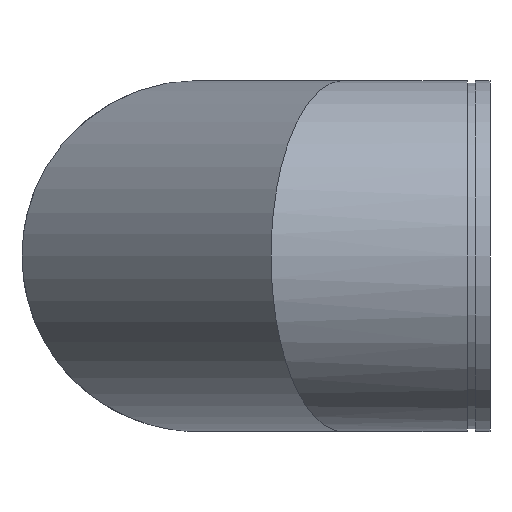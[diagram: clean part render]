
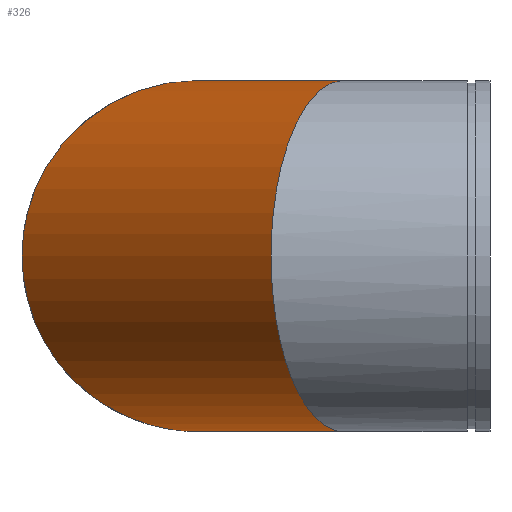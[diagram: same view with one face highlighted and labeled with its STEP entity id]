
A CAD part, left-side view. The second image highlights one B-rep face of the part: STEP entity #326.
In plain terms, the highlighted cylindrical face has radius 304.8 mm (diameter 609.6 mm), a full revolution.
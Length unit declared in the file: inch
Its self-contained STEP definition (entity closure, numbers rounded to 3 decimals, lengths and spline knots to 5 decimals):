
#51=ELLIPSE('',#383,12.98871,12.);
#52=ELLIPSE('',#384,12.98871,12.);
#53=ELLIPSE('',#385,12.98871,12.);
#54=ELLIPSE('',#388,12.98871,12.);
#55=ELLIPSE('',#389,12.98871,12.);
#56=ELLIPSE('',#390,12.98871,12.);
#82=FACE_OUTER_BOUND('',#103,.T.);
#103=EDGE_LOOP('',(#269,#270,#271,#272,#273,#274,#275,#276));
#115=LINE('',#606,#125);
#125=VECTOR('',#494,12.);
#165=VERTEX_POINT('',#596);
#166=VERTEX_POINT('',#598);
#167=VERTEX_POINT('',#600);
#168=VERTEX_POINT('',#605);
#169=VERTEX_POINT('',#607);
#170=VERTEX_POINT('',#609);
#201=EDGE_CURVE('',#165,#166,#51,.T.);
#202=EDGE_CURVE('',#167,#166,#52,.T.);
#203=EDGE_CURVE('',#167,#165,#53,.T.);
#204=EDGE_CURVE('',#165,#168,#115,.T.);
#205=EDGE_CURVE('',#168,#169,#54,.T.);
#206=EDGE_CURVE('',#170,#169,#55,.T.);
#207=EDGE_CURVE('',#170,#168,#56,.T.);
#269=ORIENTED_EDGE('',*,*,#203,.F.);
#270=ORIENTED_EDGE('',*,*,#202,.T.);
#271=ORIENTED_EDGE('',*,*,#201,.F.);
#272=ORIENTED_EDGE('',*,*,#204,.T.);
#273=ORIENTED_EDGE('',*,*,#205,.T.);
#274=ORIENTED_EDGE('',*,*,#206,.F.);
#275=ORIENTED_EDGE('',*,*,#207,.T.);
#276=ORIENTED_EDGE('',*,*,#204,.F.);
#293=CYLINDRICAL_SURFACE('',#387,12.);
#326=ADVANCED_FACE('',(#82),#293,.T.);
#383=AXIS2_PLACEMENT_3D('',#599,#484,#485);
#384=AXIS2_PLACEMENT_3D('',#601,#486,#487);
#385=AXIS2_PLACEMENT_3D('',#602,#488,#489);
#387=AXIS2_PLACEMENT_3D('',#604,#492,#493);
#388=AXIS2_PLACEMENT_3D('',#608,#495,#496);
#389=AXIS2_PLACEMENT_3D('',#610,#497,#498);
#390=AXIS2_PLACEMENT_3D('',#611,#499,#500);
#484=DIRECTION('center_axis',(-0.383,-0.924,0.));
#485=DIRECTION('ref_axis',(0.924,-0.383,0.));
#486=DIRECTION('center_axis',(0.383,0.924,0.));
#487=DIRECTION('ref_axis',(0.924,-0.383,0.));
#488=DIRECTION('center_axis',(-0.383,-0.924,0.));
#489=DIRECTION('ref_axis',(0.924,-0.383,0.));
#492=DIRECTION('center_axis',(-0.707,-0.707,0.));
#493=DIRECTION('ref_axis',(0.707,-0.707,0.));
#494=DIRECTION('',(0.707,0.707,0.));
#495=DIRECTION('center_axis',(-0.924,-0.383,0.));
#496=DIRECTION('ref_axis',(0.383,-0.924,0.));
#497=DIRECTION('center_axis',(0.924,0.383,0.));
#498=DIRECTION('ref_axis',(0.383,-0.924,0.));
#499=DIRECTION('center_axis',(-0.924,-0.383,0.));
#500=DIRECTION('ref_axis',(0.383,-0.924,0.));
#596=CARTESIAN_POINT('',(-12.,-5.02944,0.));
#598=CARTESIAN_POINT('',(0.,-10.,-12.));
#599=CARTESIAN_POINT('Origin',(0.,-10.,0.));
#600=CARTESIAN_POINT('',(0.,-10.,12.));
#601=CARTESIAN_POINT('Origin',(0.,-10.,0.));
#602=CARTESIAN_POINT('Origin',(0.,-10.,0.));
#604=CARTESIAN_POINT('Origin',(10.,0.,0.));
#605=CARTESIAN_POINT('',(5.02944,12.,0.));
#606=CARTESIAN_POINT('',(1.51472,8.48528,0.));
#607=CARTESIAN_POINT('',(10.,0.,-12.));
#608=CARTESIAN_POINT('Origin',(10.,0.,0.));
#609=CARTESIAN_POINT('',(10.,0.,12.));
#610=CARTESIAN_POINT('Origin',(10.,0.,0.));
#611=CARTESIAN_POINT('Origin',(10.,0.,0.));
